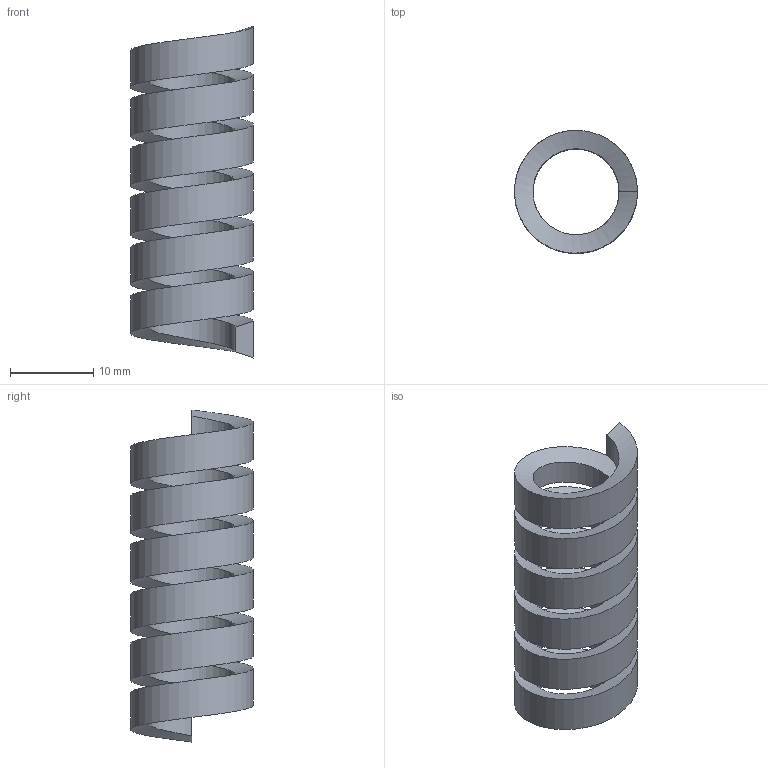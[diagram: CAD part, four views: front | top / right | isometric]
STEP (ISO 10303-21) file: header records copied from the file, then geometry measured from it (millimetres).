
FILE_DESCRIPTION(('Open CASCADE Model'),'2;1');
FILE_NAME('Open CASCADE Shape Model','2026-10-26T07:40:11',('Author'),( 'Open CASCADE'),'Open CASCADE STEP processor 7.9','Open CASCADE 7.9' ,'Unknown');
FILE_SCHEMA(('AUTOMOTIVE_DESIGN { 1 0 10303 214 1 1 1 1 }'));
Length unit declared in the file: millimetre
Products named in the file (1): Open CASCADE STEP translator 7.9 1
Bounding box: 14.81 x 14.81 x 40 mm (x, y, z)
Volume: 1976.6 mm3; surface area: 2960.1 mm2
Topology: 1 solids, 1 shells, 6 faces, 12 edges, 8 vertices
Faces by surface type: bspline 4, plane 2
Entity records: 809 total; most frequent: CARTESIAN_POINT 590, ORIENTED_EDGE 24, PCURVE 24, DEFINITIONAL_REPRESENTATION 24, DIRECTION 22, B_SPLINE_CURVE_WITH_KNOTS 20, LINE 16, VECTOR 16
